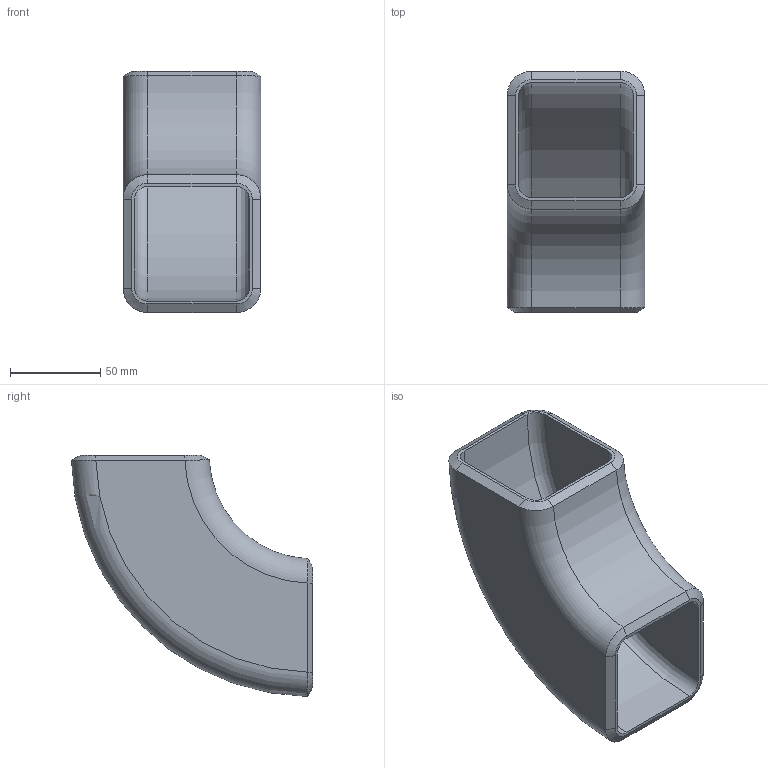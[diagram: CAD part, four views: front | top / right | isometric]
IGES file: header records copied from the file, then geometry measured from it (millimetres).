
Global section: file name: No Iges File Name specified; native system: Autodesk Inventor 2011; preprocessor: AutoDesk Inventor Iges Exporter R2011; author: bamfomg; date: 20110321.073240; units: inch
Bounding box: 76.2 x 133.32 x 133.32 mm (x, y, z)
Volume: 245184.9 mm3; surface area: 80503.7 mm2
Topology: 1 solids, 1 shells, 34 faces, 80 edges, 48 vertices
Faces by surface type: bspline 16, revolution 6, plane 6, torus 4, cylinder 2
